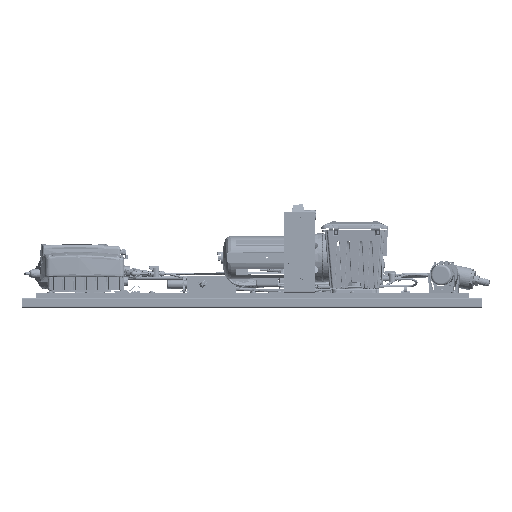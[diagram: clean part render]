
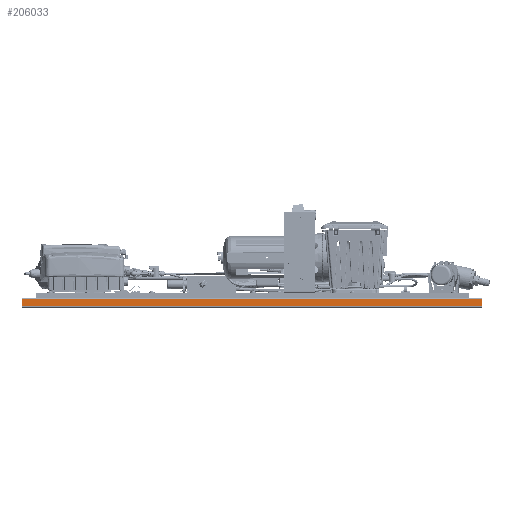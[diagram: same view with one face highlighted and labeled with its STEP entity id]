
A CAD part, left-side view. The second image highlights one B-rep face of the part: STEP entity #206033.
In plain terms, the highlighted planar face has unit normal (-1, 0, 0).
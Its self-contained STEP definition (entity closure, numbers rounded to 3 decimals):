
#6041 = LINE ( 'NONE', #166912, #327533 ) ;
#8703 = EDGE_LOOP ( 'NONE', ( #238446, #351815, #187524, #111023 ) ) ;
#11335 = PLANE ( 'NONE',  #219540 ) ;
#24685 = CARTESIAN_POINT ( 'NONE',  ( -15.94, -36.519, -0.281 ) ) ;
#30090 = LINE ( 'NONE', #24685, #43775 ) ;
#40981 = EDGE_CURVE ( 'NONE', #149299, #359710, #190828, .T. ) ;
#43775 = VECTOR ( 'NONE', #278582, 39.37 ) ;
#46919 = EDGE_CURVE ( 'NONE', #139428, #359710, #30090, .T. ) ;
#98434 = VECTOR ( 'NONE', #265972, 39.37 ) ;
#101497 = CARTESIAN_POINT ( 'NONE',  ( -15.94, 14.481, -0.281 ) ) ;
#109852 = CARTESIAN_POINT ( 'NONE',  ( -15.94, -36.519, -1.094 ) ) ;
#111023 = ORIENTED_EDGE ( 'NONE', *, *, #40981, .T. ) ;
#115026 = VERTEX_POINT ( 'NONE', #263580 ) ;
#117427 = DIRECTION ( 'NONE',  ( 0., 0., -1. ) ) ;
#127073 = VECTOR ( 'NONE', #159822, 39.37 ) ;
#139428 = VERTEX_POINT ( 'NONE', #260635 ) ;
#149299 = VERTEX_POINT ( 'NONE', #321403 ) ;
#159822 = DIRECTION ( 'NONE',  ( 0., -1., 0. ) ) ;
#166912 = CARTESIAN_POINT ( 'NONE',  ( -15.94, 14.481, -0.281 ) ) ;
#187260 = CARTESIAN_POINT ( 'NONE',  ( -15.94, 14.481, -1.094 ) ) ;
#187524 = ORIENTED_EDGE ( 'NONE', *, *, #325071, .T. ) ;
#190828 = LINE ( 'NONE', #187260, #127073 ) ;
#206033 = ADVANCED_FACE ( 'NONE', ( #239611 ), #11335, .T. ) ;
#210415 = DIRECTION ( 'NONE',  ( -1., 0., 0. ) ) ;
#211126 = LINE ( 'NONE', #101497, #98434 ) ;
#219540 = AXIS2_PLACEMENT_3D ( 'NONE', #316384, #210415, #288993 ) ;
#238446 = ORIENTED_EDGE ( 'NONE', *, *, #46919, .F. ) ;
#239611 = FACE_OUTER_BOUND ( 'NONE', #8703, .T. ) ;
#242586 = EDGE_CURVE ( 'NONE', #115026, #139428, #211126, .T. ) ;
#260635 = CARTESIAN_POINT ( 'NONE',  ( -15.94, -36.519, -0.281 ) ) ;
#263580 = CARTESIAN_POINT ( 'NONE',  ( -15.94, 14.481, -0.281 ) ) ;
#265972 = DIRECTION ( 'NONE',  ( 0., -1., 0. ) ) ;
#278582 = DIRECTION ( 'NONE',  ( 0., 0., -1. ) ) ;
#288993 = DIRECTION ( 'NONE',  ( 0., 0., 1. ) ) ;
#316384 = CARTESIAN_POINT ( 'NONE',  ( -15.94, 14.481, -0.281 ) ) ;
#321403 = CARTESIAN_POINT ( 'NONE',  ( -15.94, 14.481, -1.094 ) ) ;
#325071 = EDGE_CURVE ( 'NONE', #115026, #149299, #6041, .T. ) ;
#327533 = VECTOR ( 'NONE', #117427, 39.37 ) ;
#351815 = ORIENTED_EDGE ( 'NONE', *, *, #242586, .F. ) ;
#359710 = VERTEX_POINT ( 'NONE', #109852 ) ;
